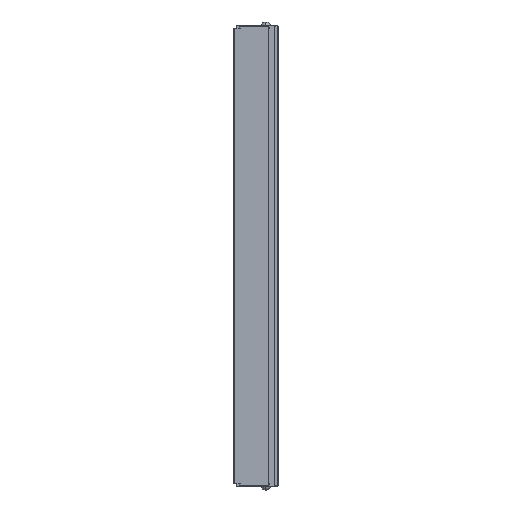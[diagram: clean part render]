
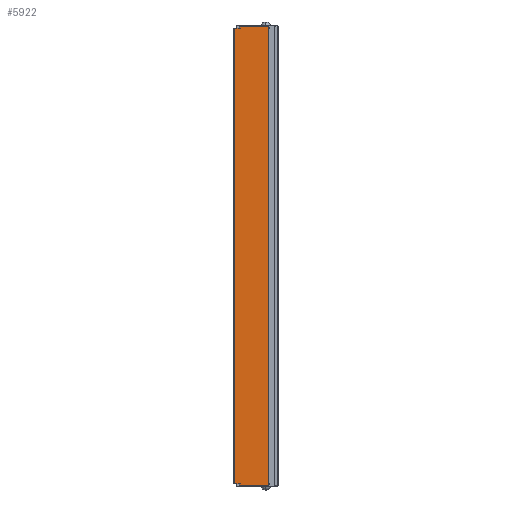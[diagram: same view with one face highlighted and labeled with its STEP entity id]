
A CAD part, left-side view. The second image highlights one B-rep face of the part: STEP entity #5922.
In plain terms, the highlighted planar face has unit normal (-1, 0, 0).
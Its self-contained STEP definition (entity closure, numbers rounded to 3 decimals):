
#373=DIRECTION('',(0.,1.,0.));
#374=VECTOR('',#373,3.3);
#375=CARTESIAN_POINT('',(-19.,13.2,139.5));
#376=LINE('',#375,#374);
#1301=DIRECTION('',(0.,-1.,0.));
#1302=VECTOR('',#1301,17.5);
#1303=CARTESIAN_POINT('',(-19.,13.2,-140.5));
#1304=LINE('',#1303,#1302);
#1309=DIRECTION('',(0.,0.,1.));
#1310=VECTOR('',#1309,281.);
#1311=CARTESIAN_POINT('',(-19.,-4.3,-140.5));
#1312=LINE('',#1311,#1310);
#2053=DIRECTION('',(0.,1.,0.));
#2054=VECTOR('',#2053,3.3);
#2055=CARTESIAN_POINT('',(-19.,13.2,-139.5));
#2056=LINE('',#2055,#2054);
#2057=DIRECTION('',(0.,0.,1.));
#2058=VECTOR('',#2057,1.);
#2059=CARTESIAN_POINT('',(-19.,13.2,139.5));
#2060=LINE('',#2059,#2058);
#2061=DIRECTION('',(0.,0.,-1.));
#2062=VECTOR('',#2061,1.);
#2063=CARTESIAN_POINT('',(-19.,13.2,-139.5));
#2064=LINE('',#2063,#2062);
#2089=DIRECTION('',(0.,0.,-1.));
#2090=VECTOR('',#2089,279.);
#2091=CARTESIAN_POINT('',(-19.,16.5,139.5));
#2092=LINE('',#2091,#2090);
#2117=DIRECTION('',(0.,1.,0.));
#2118=VECTOR('',#2117,17.5);
#2119=CARTESIAN_POINT('',(-19.,-4.3,140.5));
#2120=LINE('',#2119,#2118);
#2277=CARTESIAN_POINT('',(-19.,16.5,-139.5));
#2278=VERTEX_POINT('',#2277);
#2287=CARTESIAN_POINT('',(-19.,16.5,139.5));
#2288=VERTEX_POINT('',#2287);
#2333=CARTESIAN_POINT('',(-19.,13.2,140.5));
#2334=VERTEX_POINT('',#2333);
#2539=CARTESIAN_POINT('',(-19.,-4.3,140.5));
#2541=VERTEX_POINT('',#2539);
#2621=CARTESIAN_POINT('',(-19.,13.2,139.5));
#2623=VERTEX_POINT('',#2621);
#2677=CARTESIAN_POINT('',(-19.,13.2,-140.5));
#2679=VERTEX_POINT('',#2677);
#2681=CARTESIAN_POINT('',(-19.,-4.3,-140.5));
#2682=VERTEX_POINT('',#2681);
#2911=CARTESIAN_POINT('',(-19.,13.2,-139.5));
#2912=VERTEX_POINT('',#2911);
#5904=CARTESIAN_POINT('',(-19.,16.5,-139.5));
#5905=DIRECTION('',(-1.,0.,0.));
#5906=DIRECTION('',(0.,-1.,0.));
#5907=AXIS2_PLACEMENT_3D('',#5904,#5905,#5906);
#5908=PLANE('',#5907);
#5909=ORIENTED_EDGE('',*,*,#4423,.F.);
#5910=ORIENTED_EDGE('',*,*,#4409,.F.);
#5912=ORIENTED_EDGE('',*,*,#5911,.F.);
#5913=ORIENTED_EDGE('',*,*,#3479,.T.);
#5915=ORIENTED_EDGE('',*,*,#5914,.F.);
#5916=ORIENTED_EDGE('',*,*,#3692,.F.);
#5917=ORIENTED_EDGE('',*,*,#3858,.T.);
#5919=ORIENTED_EDGE('',*,*,#5918,.F.);
#5920=EDGE_LOOP('',(#5909,#5910,#5912,#5913,#5915,#5916,#5917,#5919));
#5921=FACE_OUTER_BOUND('',#5920,.F.);
#3479=EDGE_CURVE('',#2912,#2278,#2056,.T.);
#3692=EDGE_CURVE('',#2623,#2288,#376,.T.);
#3858=EDGE_CURVE('',#2623,#2334,#2060,.T.);
#4409=EDGE_CURVE('',#2679,#2682,#1304,.T.);
#4423=EDGE_CURVE('',#2682,#2541,#1312,.T.);
#5911=EDGE_CURVE('',#2912,#2679,#2064,.T.);
#5914=EDGE_CURVE('',#2288,#2278,#2092,.T.);
#5918=EDGE_CURVE('',#2541,#2334,#2120,.T.);
#5922=ADVANCED_FACE('',(#5921),#5908,.T.);
